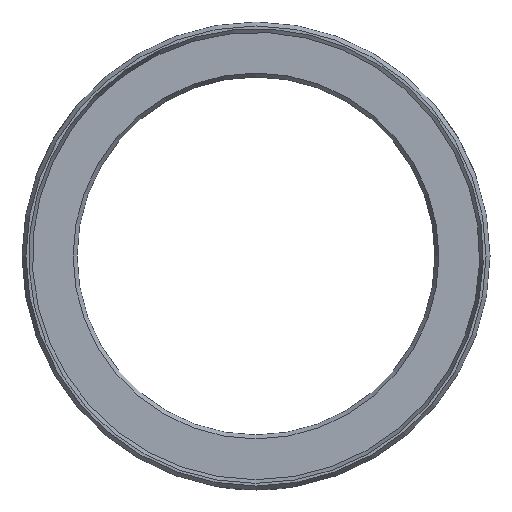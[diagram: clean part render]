
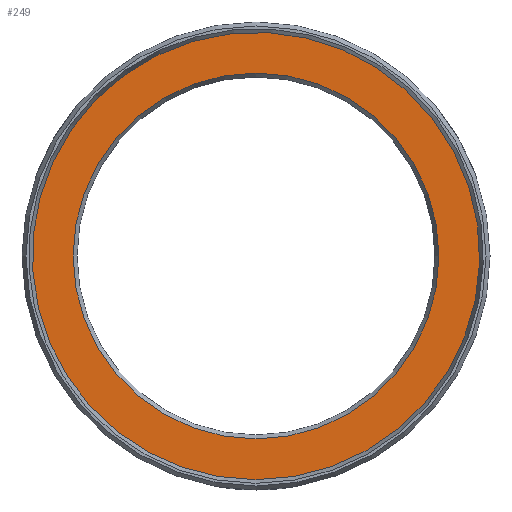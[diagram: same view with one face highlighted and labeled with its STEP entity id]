
A CAD part, left-side view. The second image highlights one B-rep face of the part: STEP entity #249.
In plain terms, the highlighted planar face has unit normal (-1, 0, 0).
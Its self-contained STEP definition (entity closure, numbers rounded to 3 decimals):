
#106=PLANE('',#985);
#249=ADVANCED_FACE('',(#309,#310),#106,.T.);
#309=FACE_BOUND('',#364,.T.);
#310=FACE_BOUND('',#365,.T.);
#364=EDGE_LOOP('',(#571));
#365=EDGE_LOOP('',(#572));
#571=ORIENTED_EDGE('',*,*,#816,.T.);
#572=ORIENTED_EDGE('',*,*,#815,.F.);
#701=VERTEX_POINT('',#1611);
#702=VERTEX_POINT('',#1614);
#815=EDGE_CURVE('',#701,#701,#881,.T.);
#816=EDGE_CURVE('',#702,#702,#882,.T.);
#881=CIRCLE('',#982,32.5);
#882=CIRCLE('',#984,26.577);
#982=AXIS2_PLACEMENT_3D('',#1610,#1195,#1196);
#984=AXIS2_PLACEMENT_3D('',#1613,#1199,#1200);
#985=AXIS2_PLACEMENT_3D('',#1615,#1201,#1202);
#1195=DIRECTION('',(1.,0.,0.));
#1196=DIRECTION('',(0.,0.,-1.));
#1199=DIRECTION('',(1.,0.,0.));
#1200=DIRECTION('',(0.,0.,1.));
#1201=DIRECTION('',(-1.,0.,0.));
#1202=DIRECTION('',(0.,0.,1.));
#1610=CARTESIAN_POINT('',(0.,0.,0.));
#1611=CARTESIAN_POINT('',(0.,0.,-32.5));
#1613=CARTESIAN_POINT('',(0.,0.,0.));
#1614=CARTESIAN_POINT('',(0.,0.,26.577));
#1615=CARTESIAN_POINT('',(0.,32.5,0.));
